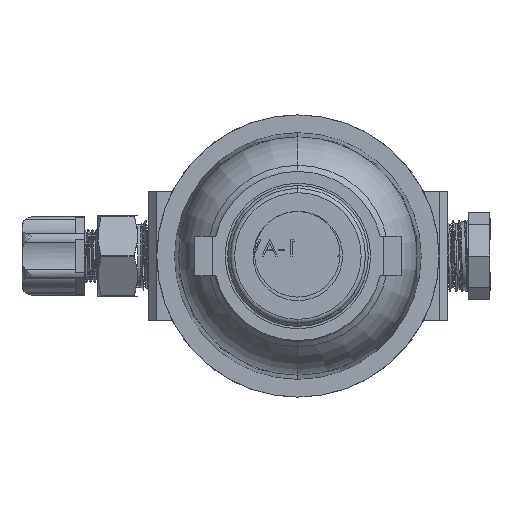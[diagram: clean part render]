
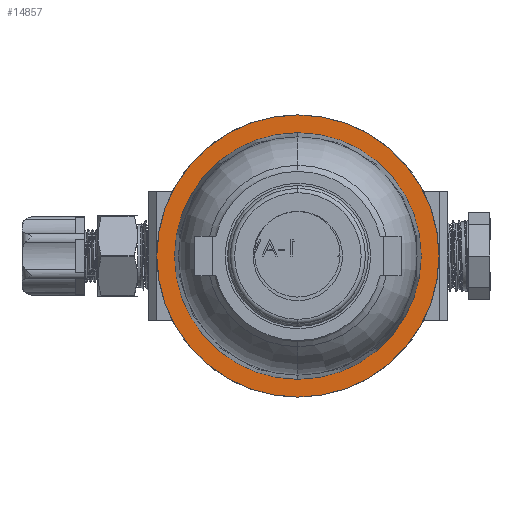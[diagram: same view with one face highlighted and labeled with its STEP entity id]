
A CAD part, front view. The second image highlights one B-rep face of the part: STEP entity #14857.
In plain terms, the highlighted planar face has unit normal (0, -1, 0).
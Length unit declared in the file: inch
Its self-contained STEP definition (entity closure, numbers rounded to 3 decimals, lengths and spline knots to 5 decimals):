
#1728 = FACE_OUTER_BOUND ( 'NONE', #12813, .T. ) ;
#2131 = ORIENTED_EDGE ( 'NONE', *, *, #6104, .F. ) ;
#2338 = DIRECTION ( 'NONE',  ( 0., 1., 0. ) ) ;
#3697 = DIRECTION ( 'NONE',  ( 0., 1., 0. ) ) ;
#3938 = AXIS2_PLACEMENT_3D ( 'NONE', #15516, #2338, #17739 ) ;
#4761 = CIRCLE ( 'NONE', #3938, 1.65 ) ;
#5097 = VERTEX_POINT ( 'NONE', #13899 ) ;
#5279 = CARTESIAN_POINT ( 'NONE',  ( 0., 0., -1.44146 ) ) ;
#5978 = ORIENTED_EDGE ( 'NONE', *, *, #21562, .F. ) ;
#6104 = EDGE_CURVE ( 'NONE', #14394, #5097, #17107, .T. ) ;
#6383 = VERTEX_POINT ( 'NONE', #27430 ) ;
#6574 = CIRCLE ( 'NONE', #12842, 1.44146 ) ;
#9378 = EDGE_LOOP ( 'NONE', ( #2131, #13841 ) ) ;
#9440 = CARTESIAN_POINT ( 'NONE',  ( 0., 0., 0. ) ) ;
#10022 = CARTESIAN_POINT ( 'NONE',  ( 0., 0., 0. ) ) ;
#10648 = DIRECTION ( 'NONE',  ( 0., 1., 0. ) ) ;
#11654 = DIRECTION ( 'NONE',  ( 0., 0., -1. ) ) ;
#12217 = DIRECTION ( 'NONE',  ( 0., 0., -1. ) ) ;
#12813 = EDGE_LOOP ( 'NONE', ( #17160, #5978 ) ) ;
#12842 = AXIS2_PLACEMENT_3D ( 'NONE', #9440, #24784, #11654 ) ;
#13422 = FACE_BOUND ( 'NONE', #9378, .T. ) ;
#13841 = ORIENTED_EDGE ( 'NONE', *, *, #20621, .F. ) ;
#13899 = CARTESIAN_POINT ( 'NONE',  ( 0., 0., 1.44146 ) ) ;
#14394 = VERTEX_POINT ( 'NONE', #5279 ) ;
#14857 = ADVANCED_FACE ( 'NONE', ( #13422, #1728 ), #21187, .F. ) ;
#15516 = CARTESIAN_POINT ( 'NONE',  ( 0., 0., 0. ) ) ;
#16876 = CARTESIAN_POINT ( 'NONE',  ( 0., 0., 0. ) ) ;
#16964 = AXIS2_PLACEMENT_3D ( 'NONE', #16876, #3697, #19060 ) ;
#17107 = CIRCLE ( 'NONE', #26390, 1.44146 ) ;
#17160 = ORIENTED_EDGE ( 'NONE', *, *, #21323, .F. ) ;
#17739 = DIRECTION ( 'NONE',  ( 0., 0., -1. ) ) ;
#19060 = DIRECTION ( 'NONE',  ( 0., 0., -1. ) ) ;
#20621 = EDGE_CURVE ( 'NONE', #5097, #14394, #6574, .T. ) ;
#21086 = AXIS2_PLACEMENT_3D ( 'NONE', #23795, #10648, #26016 ) ;
#21187 = PLANE ( 'NONE',  #16964 ) ;
#21323 = EDGE_CURVE ( 'NONE', #28364, #6383, #4761, .T. ) ;
#21562 = EDGE_CURVE ( 'NONE', #6383, #28364, #23967, .T. ) ;
#23523 = CARTESIAN_POINT ( 'NONE',  ( 0., 0., 1.65 ) ) ;
#23795 = CARTESIAN_POINT ( 'NONE',  ( 0., 0., 0. ) ) ;
#23967 = CIRCLE ( 'NONE', #21086, 1.65 ) ;
#24784 = DIRECTION ( 'NONE',  ( 0., -1., 0. ) ) ;
#25366 = DIRECTION ( 'NONE',  ( 0., -1., 0. ) ) ;
#26016 = DIRECTION ( 'NONE',  ( 0., 0., -1. ) ) ;
#26390 = AXIS2_PLACEMENT_3D ( 'NONE', #10022, #25366, #12217 ) ;
#27430 = CARTESIAN_POINT ( 'NONE',  ( 0., 0., -1.65 ) ) ;
#28364 = VERTEX_POINT ( 'NONE', #23523 ) ;
